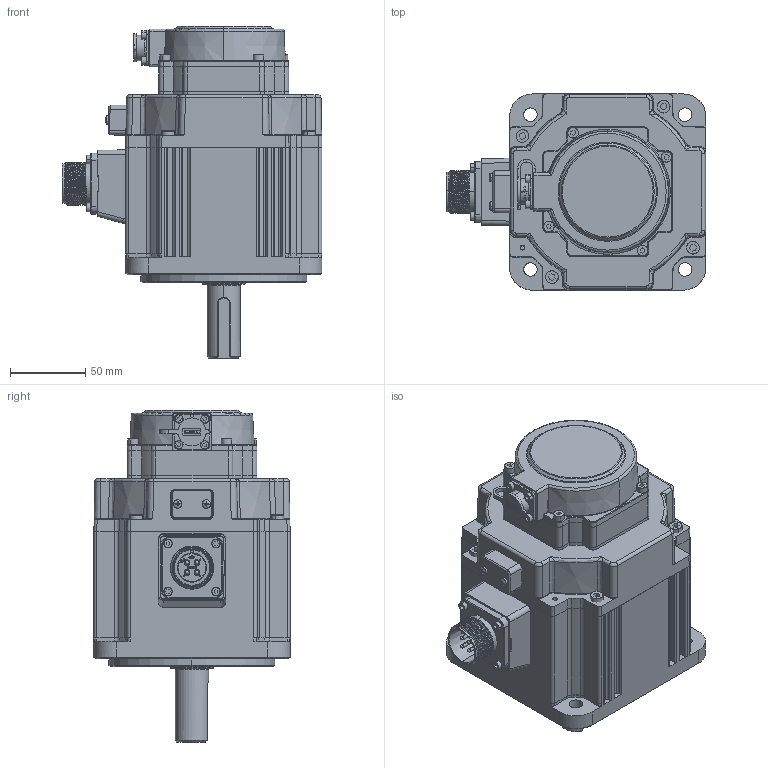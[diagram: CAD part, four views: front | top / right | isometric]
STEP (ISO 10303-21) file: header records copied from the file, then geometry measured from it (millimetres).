
FILE_DESCRIPTION (( 'STEP AP203' ), '1' );
FILE_NAME ('MS6G-130TH25BZ2-41P0.STEP', '2024-06-18T07:55:28', ( '' ), ( '' ), 'SwSTEP 2.0', 'SolidWorks 2022', '' );
FILE_SCHEMA (( 'CONFIG_CONTROL_DESIGN' ));
Length unit declared in the file: millimetre
Products named in the file (1): MS6G-130TH25BZ2-41P0
Bounding box: 172.1 x 130 x 220 mm (x, y, z)
Volume: 2116338.5 mm3; surface area: 216480.1 mm2
Topology: 29 solids, 29 shells, 2951 faces, 7898 edges, 5136 vertices
Faces by surface type: plane 1468, cylinder 704, bspline 464, cone 157, torus 142, sphere 16
Entity records: 110125 total; most frequent: CARTESIAN_POINT 41987, ORIENTED_EDGE 15660, DIRECTION 11733, EDGE_CURVE 7830, VERTEX_POINT 5126, AXIS2_PLACEMENT_3D 3923, LINE 3887, VECTOR 3887
